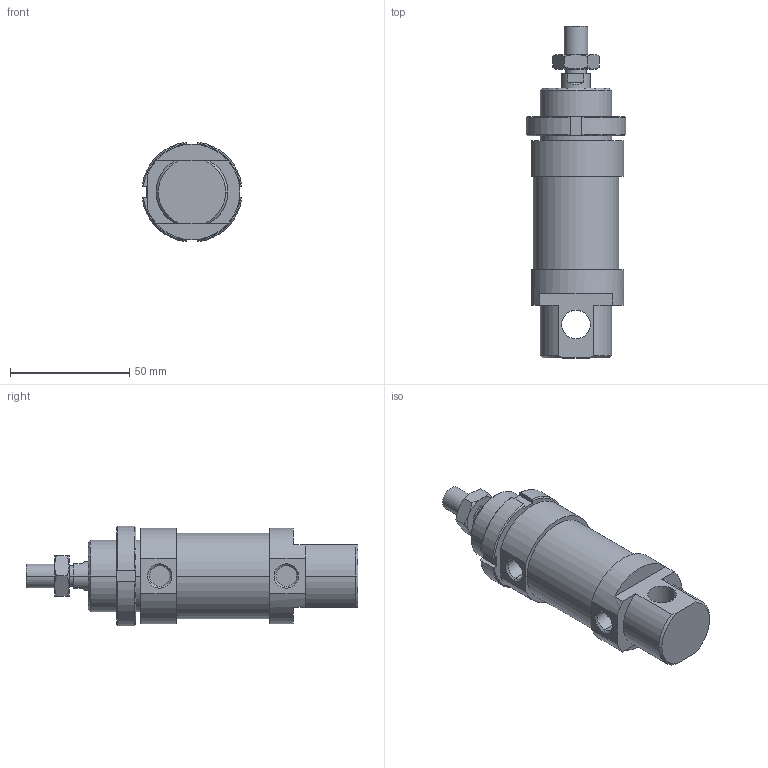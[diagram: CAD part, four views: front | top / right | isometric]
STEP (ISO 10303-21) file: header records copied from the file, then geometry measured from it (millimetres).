
FILE_DESCRIPTION((''),'2;1');
FILE_NAME('I:\DOC-EDP\Lib-3d\1200\CILINDRI\1260\1260_32_0000.stp','2003-04-02T15:04:50',('maffial1'),(''),'Autodesk Inventor (R) 6.0','Autodesk Inventor (R) 6.0','');
FILE_SCHEMA(('AUTOMOTIVE_DESIGN { 1 0 10303 214 1 1 1 1 }'));
Length unit declared in the file: millimetre
Products named in the file (5): 1260_32_0000; S1260_32_0; 1200_32_05; 1200_32_06; C1260_32_0
Assembly tree (4 placements, depth 2):
  1260_32_0000
    S1260_32_0
    1200_32_05
    1200_32_06
    C1260_32_0
Bounding box: 41.7 x 139 x 41.7 mm (x, y, z)
Volume: 110422.4 mm3; surface area: 24256.2 mm2
Topology: 4 solids, 4 shells, 122 faces, 286 edges, 180 vertices
Faces by surface type: plane 44, cone 32, cylinder 26, bspline 20
Entity records: 3831 total; most frequent: CARTESIAN_POINT 997, DIRECTION 582, ORIENTED_EDGE 572, EDGE_CURVE 286, AXIS2_PLACEMENT_3D 229, VERTEX_POINT 180, EDGE_LOOP 136, VECTOR 124
